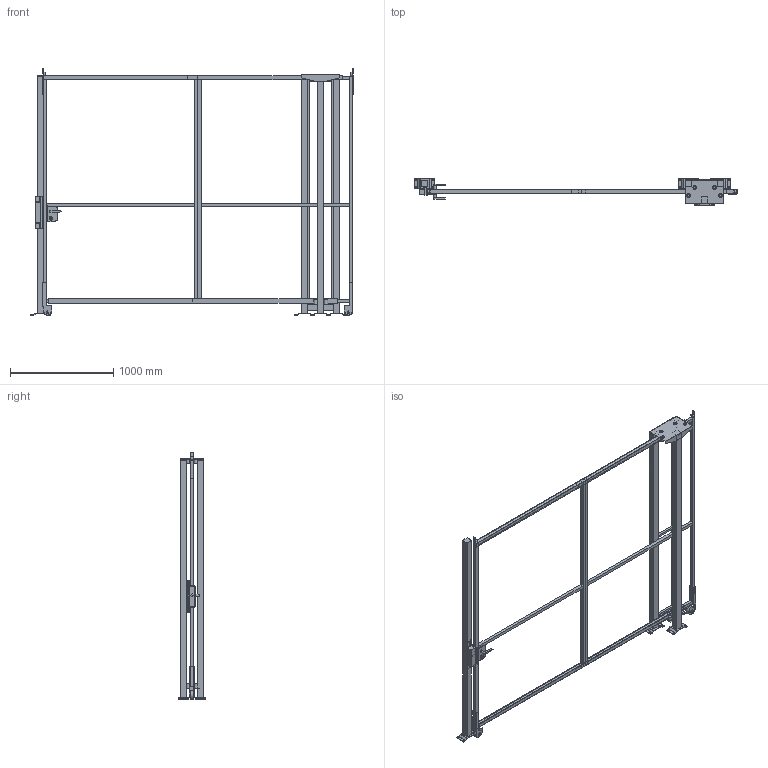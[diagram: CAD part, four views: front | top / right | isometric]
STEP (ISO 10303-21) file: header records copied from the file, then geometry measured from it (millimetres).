
FILE_DESCRIPTION(/* description */ (''),/* implementation_level */ '2;1');
FILE_NAME(/* name */ 'C:\SafeGuarding\ELABORATI\KLADKOUGAMMA_2025-03-21-10-01-28.stp',/* time_stamp */ '2025-03-21T10:01:33+01:00',/* author */ ('admin'),/* organization */ (''),/* preprocessor_version */ 'ST-DEVELOPER v18.1',/* originating_system */ 'AutoCAD Mechanical',/* authorisation */ '');
FILE_SCHEMA (('AUTOMOTIVE_DESIGN { 1 0 10303 214 3 1 1 }'));
Length unit declared in the file: millimetre
Products named in the file (4): Product; R_VFPA.REPE30.15002200; R_VFPA.REPE20.02502200; P_VFMA.V260SDU.2320
Assembly tree (7 placements, depth 2):
  Product
    R_VFPA.REPE30.15002200  x2
    P_VFMA.V260SDU.2320  x4
    R_VFPA.REPE20.02502200
Bounding box: 3125.93 x 264 x 2390.02 mm (x, y, z)
Volume: 55663157.4 mm3; surface area: 7224288.9 mm2
Topology: 67 solids, 67 shells, 602 faces, 1776 edges, 1784 vertices
Faces by surface type: plane 524, cylinder 74, bspline 4
Full cylindrical faces by diameter (mm): 9 x4, 11 x16, 13 x4, 18 x1, 25 x2, 25.398 x2, 30 x6, 36 x8, 80 x2
Entity records: 16757 total; most frequent: CARTESIAN_POINT 4356, DIRECTION 2477, ORIENTED_EDGE 2230, EDGE_CURVE 1115, LINE 1099, VECTOR 1099, VERTEX_POINT 750, AXIS2_PLACEMENT_3D 689
